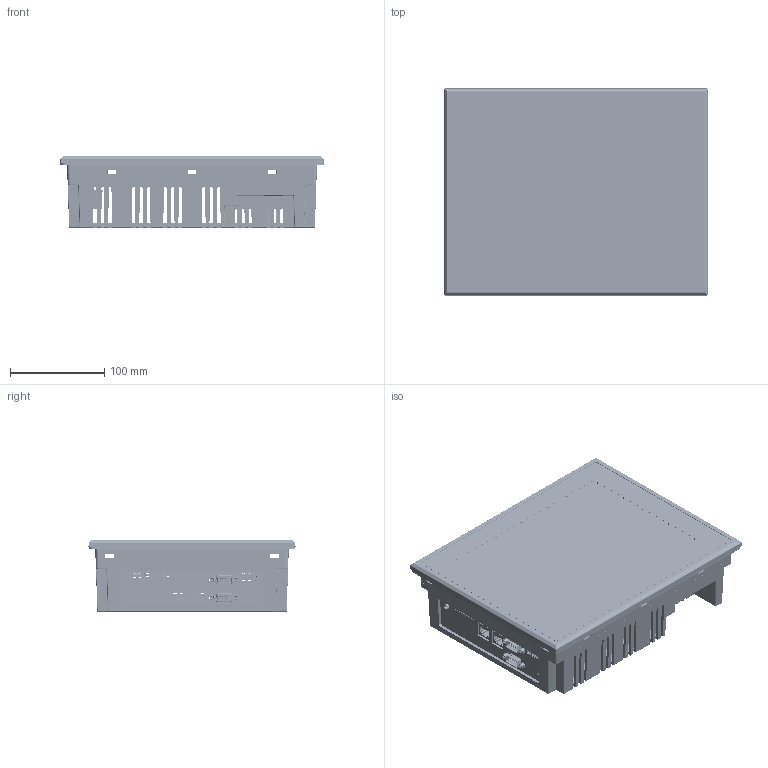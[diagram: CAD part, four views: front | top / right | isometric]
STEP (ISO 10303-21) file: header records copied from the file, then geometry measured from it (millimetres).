
FILE_DESCRIPTION (( 'STEP AP203' ), '1' );
FILE_NAME ('CM-eXT-10.STEP', '2025-02-07T06:43:57', ( '' ), ( '' ), 'SwSTEP 2.0', 'SolidWorks 2024', '' );
FILE_SCHEMA (( 'CONFIG_CONTROL_DESIGN' ));
Length unit declared in the file: millimetre
Products named in the file (11): IO bracket_BXP40001_i.MX6; Bottom Case_BTC40086_A; PSU_BTC03016; Main Plate_BTC40097_0.188; Front Bezel_BTC40083_A; 10.4 Touch + Main plate + Front_BTC40102; Frame Rubber_BXP30045_A; Main Board_BXP40025; TFT LCD_BTC30455_G104XCE-L01_(InnoLux); CM-eXT-10; Touch Panel 4W_BXP05011_A
Assembly tree (10 placements, depth 3):
  CM-eXT-10
    10.4 Touch + Main plate + Front_BTC40102
      Front Bezel_BTC40083_A
      Main Plate_BTC40097_0.188
      Touch Panel 4W_BXP05011_A
    Bottom Case_BTC40086_A
    Frame Rubber_BXP30045_A
    TFT LCD_BTC30455_G104XCE-L01_(InnoLux)
    Main Board_BXP40025
    PSU_BTC03016
    IO bracket_BXP40001_i.MX6
Bounding box: 280 x 220 x 75.9 mm (x, y, z)
Volume: 817811.1 mm3; surface area: 579737.1 mm2
Topology: 9 solids, 34 shells, 7007 faces, 20113 edges, 12838 vertices
Faces by surface type: plane 3988, cylinder 1723, bspline 662, torus 297, cone 281, sphere 56
Full cylindrical faces by diameter (mm): 1 x4
Entity records: 271605 total; most frequent: CARTESIAN_POINT 97339, ORIENTED_EDGE 39785, DIRECTION 30746, EDGE_CURVE 19983, VECTOR 12948, LINE 12948, VERTEX_POINT 12846, AXIS2_PLACEMENT_3D 8899
